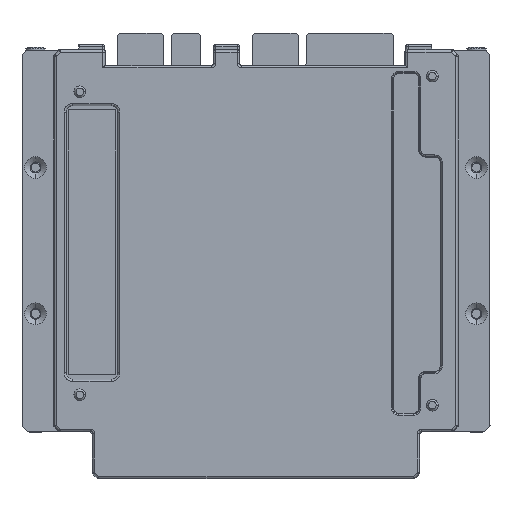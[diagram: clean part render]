
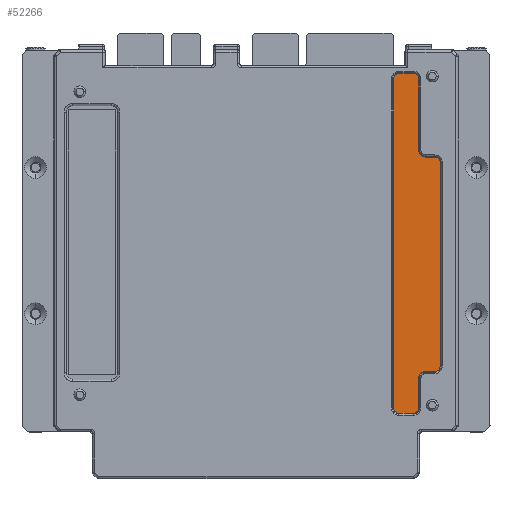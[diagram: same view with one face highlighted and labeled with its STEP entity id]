
A CAD part, front view. The second image highlights one B-rep face of the part: STEP entity #52266.
In plain terms, the highlighted planar face has unit normal (0, 1, 0).
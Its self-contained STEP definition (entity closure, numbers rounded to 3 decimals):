
#38645=DIRECTION('',(0.,0.,1.));
#38646=VECTOR('',#38645,17.463);
#38647=CARTESIAN_POINT('',(39.598,-5.537,
21.869));
#38648=LINE('',#38647,#38646);
#38663=CARTESIAN_POINT('',(34.722,-5.537,
-40.627));
#38664=DIRECTION('',(0.,1.,0.));
#38665=DIRECTION('',(0.,0.,-1.));
#38666=AXIS2_PLACEMENT_3D('',#38663,#38664,#38665);
#38668=CARTESIAN_POINT('',(38.278,-5.537,
-40.627));
#38669=DIRECTION('',(0.,1.,0.));
#38670=DIRECTION('',(1.,0.,0.));
#38671=AXIS2_PLACEMENT_3D('',#38668,#38669,#38670);
#38673=CARTESIAN_POINT('',(41.135,-5.537,
-33.325));
#38674=DIRECTION('',(0.,-1.,0.));
#38675=DIRECTION('',(0.,0.,1.));
#38676=AXIS2_PLACEMENT_3D('',#38673,#38674,#38675);
#38678=CARTESIAN_POINT('',(43.485,-5.537,
-30.467));
#38679=DIRECTION('',(0.,1.,0.));
#38680=DIRECTION('',(1.,0.,0.));
#38681=AXIS2_PLACEMENT_3D('',#38678,#38679,#38680);
#38683=CARTESIAN_POINT('',(43.485,-5.537,
19.012));
#38684=DIRECTION('',(0.,1.,0.));
#38685=DIRECTION('',(0.,0.,1.));
#38686=AXIS2_PLACEMENT_3D('',#38683,#38684,#38685);
#38688=CARTESIAN_POINT('',(41.135,-5.537,
21.869));
#38689=DIRECTION('',(0.,-1.,0.));
#38690=DIRECTION('',(-1.,0.,0.));
#38691=AXIS2_PLACEMENT_3D('',#38688,#38689,#38690);
#38693=CARTESIAN_POINT('',(38.278,-5.537,
39.332));
#38694=DIRECTION('',(0.,1.,0.));
#38695=DIRECTION('',(0.,0.,1.));
#38696=AXIS2_PLACEMENT_3D('',#38693,#38694,#38695);
#38698=CARTESIAN_POINT('',(34.722,-5.537,
39.332));
#38699=DIRECTION('',(0.,1.,0.));
#38700=DIRECTION('',(-1.,0.,0.));
#38701=AXIS2_PLACEMENT_3D('',#38698,#38699,#38700);
#38713=DIRECTION('',(0.,0.,-1.));
#38714=VECTOR('',#38713,79.959);
#38715=CARTESIAN_POINT('',(33.402,-5.537,
39.332));
#38716=LINE('',#38715,#38714);
#38731=DIRECTION('',(-1.,0.,0.));
#38732=VECTOR('',#38731,3.556);
#38733=CARTESIAN_POINT('',(38.278,-5.537,
40.652));
#38734=LINE('',#38733,#38732);
#38828=DIRECTION('',(1.,0.,0.));
#38829=VECTOR('',#38828,3.556);
#38830=CARTESIAN_POINT('',(34.722,-5.537,
-41.947));
#38831=LINE('',#38830,#38829);
#38855=DIRECTION('',(0.,0.,1.));
#38856=VECTOR('',#38855,7.303);
#38857=CARTESIAN_POINT('',(39.598,-5.537,
-40.627));
#38858=LINE('',#38857,#38856);
#38904=DIRECTION('',(1.,0.,0.));
#38905=VECTOR('',#38904,2.35);
#38906=CARTESIAN_POINT('',(41.135,-5.537,
-31.787));
#38907=LINE('',#38906,#38905);
#38940=DIRECTION('',(0.,0.,1.));
#38941=VECTOR('',#38940,49.479);
#38942=CARTESIAN_POINT('',(44.805,-5.537,
-30.467));
#38943=LINE('',#38942,#38941);
#38971=DIRECTION('',(-1.,0.,0.));
#38972=VECTOR('',#38971,2.35);
#38973=CARTESIAN_POINT('',(43.485,-5.537,
20.332));
#38974=LINE('',#38973,#38972);
#40130=CARTESIAN_POINT('',(39.598,-5.537,
21.869));
#40131=CARTESIAN_POINT('',(41.135,-5.537,
20.332));
#40132=VERTEX_POINT('',#40130);
#40133=VERTEX_POINT('',#40131);
#40134=CARTESIAN_POINT('',(41.135,-5.537,
-31.787));
#40135=CARTESIAN_POINT('',(39.598,-5.537,
-33.325));
#40136=VERTEX_POINT('',#40134);
#40137=VERTEX_POINT('',#40135);
#40252=CARTESIAN_POINT('',(34.722,-5.537,
-41.947));
#40253=CARTESIAN_POINT('',(33.402,-5.537,
-40.627));
#40254=VERTEX_POINT('',#40252);
#40255=VERTEX_POINT('',#40253);
#40256=CARTESIAN_POINT('',(38.278,-5.537,
-41.947));
#40257=VERTEX_POINT('',#40256);
#40258=CARTESIAN_POINT('',(39.598,-5.537,
-40.627));
#40259=VERTEX_POINT('',#40258);
#40260=CARTESIAN_POINT('',(43.485,-5.537,
-31.787));
#40261=VERTEX_POINT('',#40260);
#40262=CARTESIAN_POINT('',(44.805,-5.537,
-30.467));
#40263=VERTEX_POINT('',#40262);
#40264=CARTESIAN_POINT('',(44.805,-5.537,
19.012));
#40265=VERTEX_POINT('',#40264);
#40266=CARTESIAN_POINT('',(43.485,-5.537,
20.332));
#40267=VERTEX_POINT('',#40266);
#40268=CARTESIAN_POINT('',(39.598,-5.537,
39.332));
#40269=VERTEX_POINT('',#40268);
#40270=CARTESIAN_POINT('',(38.278,-5.537,
40.652));
#40271=VERTEX_POINT('',#40270);
#40272=CARTESIAN_POINT('',(34.722,-5.537,
40.652));
#40273=VERTEX_POINT('',#40272);
#40274=CARTESIAN_POINT('',(33.402,-5.537,
39.332));
#40275=VERTEX_POINT('',#40274);
#52229=CARTESIAN_POINT('',(39.103,-5.537,-0.648));
#52230=DIRECTION('',(0.,1.,0.));
#52231=DIRECTION('',(1.,0.,0.));
#52232=AXIS2_PLACEMENT_3D('',#52229,#52230,#52231);
#52233=PLANE('',#52232);
#52235=ORIENTED_EDGE('',*,*,#52234,.F.);
#52237=ORIENTED_EDGE('',*,*,#52236,.T.);
#52239=ORIENTED_EDGE('',*,*,#52238,.F.);
#52241=ORIENTED_EDGE('',*,*,#52240,.T.);
#52243=ORIENTED_EDGE('',*,*,#52242,.F.);
#52245=ORIENTED_EDGE('',*,*,#52244,.T.);
#52247=ORIENTED_EDGE('',*,*,#52246,.F.);
#52249=ORIENTED_EDGE('',*,*,#52248,.T.);
#52251=ORIENTED_EDGE('',*,*,#52250,.F.);
#52253=ORIENTED_EDGE('',*,*,#52252,.T.);
#52255=ORIENTED_EDGE('',*,*,#52254,.F.);
#52256=ORIENTED_EDGE('',*,*,#52206,.T.);
#52257=ORIENTED_EDGE('',*,*,#52219,.F.);
#52259=ORIENTED_EDGE('',*,*,#52258,.T.);
#52261=ORIENTED_EDGE('',*,*,#52260,.F.);
#52263=ORIENTED_EDGE('',*,*,#52262,.T.);
#52264=EDGE_LOOP('',(#52235,#52237,#52239,#52241,#52243,#52245,#52247,#52249,
#52251,#52253,#52255,#52256,#52257,#52259,#52261,#52263));
#52265=FACE_OUTER_BOUND('',#52264,.F.);
#52266=ADVANCED_FACE('',(#52265),#52233,.T.);
#38667=CIRCLE('',#38666,1.32);
#38672=CIRCLE('',#38671,1.32);
#38677=CIRCLE('',#38676,1.537);
#38682=CIRCLE('',#38681,1.32);
#38687=CIRCLE('',#38686,1.32);
#38692=CIRCLE('',#38691,1.537);
#38697=CIRCLE('',#38696,1.32);
#38702=CIRCLE('',#38701,1.32);
#52206=EDGE_CURVE('',#40132,#40269,#38648,.T.);
#52219=EDGE_CURVE('',#40271,#40269,#38697,.T.);
#52234=EDGE_CURVE('',#40254,#40255,#38667,.T.);
#52236=EDGE_CURVE('',#40254,#40257,#38831,.T.);
#52238=EDGE_CURVE('',#40259,#40257,#38672,.T.);
#52240=EDGE_CURVE('',#40259,#40137,#38858,.T.);
#52242=EDGE_CURVE('',#40136,#40137,#38677,.T.);
#52244=EDGE_CURVE('',#40136,#40261,#38907,.T.);
#52246=EDGE_CURVE('',#40263,#40261,#38682,.T.);
#52248=EDGE_CURVE('',#40263,#40265,#38943,.T.);
#52250=EDGE_CURVE('',#40267,#40265,#38687,.T.);
#52252=EDGE_CURVE('',#40267,#40133,#38974,.T.);
#52254=EDGE_CURVE('',#40132,#40133,#38692,.T.);
#52258=EDGE_CURVE('',#40271,#40273,#38734,.T.);
#52260=EDGE_CURVE('',#40275,#40273,#38702,.T.);
#52262=EDGE_CURVE('',#40275,#40255,#38716,.T.);
